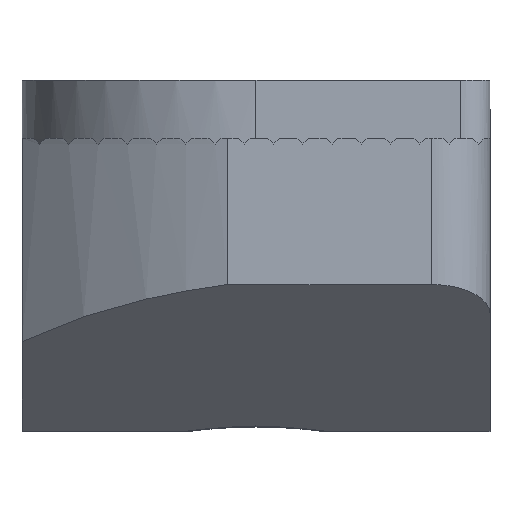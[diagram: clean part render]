
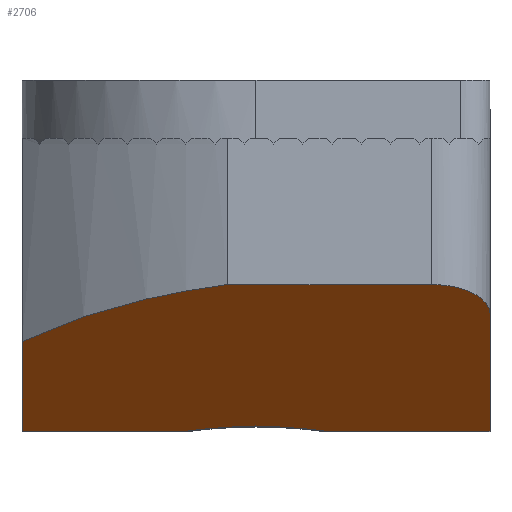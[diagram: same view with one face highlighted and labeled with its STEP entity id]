
A CAD part, top view. The second image highlights one B-rep face of the part: STEP entity #2706.
In plain terms, the highlighted planar face has unit normal (0, -0.894, 0.447).
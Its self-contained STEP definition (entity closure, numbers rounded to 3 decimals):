
#93 = LINE ( 'NONE', #1381, #1229 ) ;
#94 = CARTESIAN_POINT ( 'NONE',  ( 3., -2.5, 7.75 ) ) ;
#113 = AXIS2_PLACEMENT_3D ( 'NONE', #2503, #2196, #200 ) ;
#115 = VERTEX_POINT ( 'NONE', #2888 ) ;
#136 = CARTESIAN_POINT ( 'NONE',  ( 0., -4.917, 2.917 ) ) ;
#159 =( BOUNDED_CURVE ( )  B_SPLINE_CURVE ( 3, ( #1324, #1638, #4189, #2293 ),
 .UNSPECIFIED., .F., .T. ) 
 B_SPLINE_CURVE_WITH_KNOTS ( ( 4, 4 ),
 ( 2.902, 3.142 ),
 .UNSPECIFIED. ) 
 CURVE ( )  GEOMETRIC_REPRESENTATION_ITEM ( )  RATIONAL_B_SPLINE_CURVE ( ( 1., 0.995, 0.995, 1. ) ) 
 REPRESENTATION_ITEM ( '' )  );
#178 = ORIENTED_EDGE ( 'NONE', *, *, #1179, .T. ) ;
#200 = DIRECTION ( 'NONE',  ( 0., 0.447, 0.894 ) ) ;
#242 = VERTEX_POINT ( 'NONE', #1450 ) ;
#270 = CARTESIAN_POINT ( 'NONE',  ( -4., -5., 2.75 ) ) ;
#273 = EDGE_CURVE ( 'NONE', #115, #2267, #3612, .T. ) ;
#343 = EDGE_CURVE ( 'NONE', #1621, #2005, #3574, .T. ) ;
#420 = EDGE_CURVE ( 'NONE', #1001, #1621, #2925, .T. ) ;
#549 = CARTESIAN_POINT ( 'NONE',  ( 1.199, -5., 2.75 ) ) ;
#610 = EDGE_CURVE ( 'NONE', #2267, #2005, #2723, .T. ) ;
#620 = DIRECTION ( 'NONE',  ( 1., 0., 0. ) ) ;
#623 = EDGE_CURVE ( 'NONE', #884, #1001, #2595, .T. ) ;
#719 = ORIENTED_EDGE ( 'NONE', *, *, #610, .F. ) ;
#817 = EDGE_LOOP ( 'NONE', ( #1563, #2449, #719, #2270, #3458, #1574, #2904, #178, #3138 ) ) ;
#821 = CARTESIAN_POINT ( 'NONE',  ( 1.199, -5., 2.75 ) ) ;
#866 = PLANE ( 'NONE',  #113 ) ;
#884 = VERTEX_POINT ( 'NONE', #549 ) ;
#962 = VERTEX_POINT ( 'NONE', #1163 ) ;
#970 = CARTESIAN_POINT ( 'NONE',  ( -4., -2.5, 7.75 ) ) ;
#1001 = VERTEX_POINT ( 'NONE', #3096 ) ;
#1163 = CARTESIAN_POINT ( 'NONE',  ( 0., -4.917, 2.917 ) ) ;
#1179 = EDGE_CURVE ( 'NONE', #962, #884, #2090, .T. ) ;
#1229 = VECTOR ( 'NONE', #2980, 1000. ) ;
#1324 = CARTESIAN_POINT ( 'NONE',  ( -1.199, -5., 2.75 ) ) ;
#1381 = CARTESIAN_POINT ( 'NONE',  ( -4., -5., 2.75 ) ) ;
#1412 = CARTESIAN_POINT ( 'NONE',  ( -4., -3.47, 5.809 ) ) ;
#1442 = CARTESIAN_POINT ( 'NONE',  ( 3.586, -2.5, 7.75 ) ) ;
#1450 = CARTESIAN_POINT ( 'NONE',  ( -1.199, -5., 2.75 ) ) ;
#1551 = FACE_OUTER_BOUND ( 'NONE', #817, .T. ) ;
#1557 = CARTESIAN_POINT ( 'NONE',  ( 3., -2.5, 7.75 ) ) ;
#1563 = ORIENTED_EDGE ( 'NONE', *, *, #420, .T. ) ;
#1574 = ORIENTED_EDGE ( 'NONE', *, *, #1687, .T. ) ;
#1621 = VERTEX_POINT ( 'NONE', #4133 ) ;
#1638 = CARTESIAN_POINT ( 'NONE',  ( -0.806, -4.945, 2.861 ) ) ;
#1687 = EDGE_CURVE ( 'NONE', #2363, #242, #93, .T. ) ;
#1741 = CARTESIAN_POINT ( 'NONE',  ( -3.007, -3., 6.75 ) ) ;
#1973 = DIRECTION ( 'NONE',  ( 1., 0., 0. ) ) ;
#2005 = VERTEX_POINT ( 'NONE', #1557 ) ;
#2069 = CARTESIAN_POINT ( 'NONE',  ( -0.484, -2.5, 7.75 ) ) ;
#2090 =( BOUNDED_CURVE ( )  B_SPLINE_CURVE ( 3, ( #136, #2458, #2774, #821 ),
 .UNSPECIFIED., .F., .T. ) 
 B_SPLINE_CURVE_WITH_KNOTS ( ( 4, 4 ),
 ( 3.142, 3.381 ),
 .UNSPECIFIED. ) 
 CURVE ( )  GEOMETRIC_REPRESENTATION_ITEM ( )  RATIONAL_B_SPLINE_CURVE ( ( 1., 0.995, 0.995, 1. ) ) 
 REPRESENTATION_ITEM ( '' )  );
#2101 = DIRECTION ( 'NONE',  ( 0., 0.447, 0.894 ) ) ;
#2196 = DIRECTION ( 'NONE',  ( 0., 0.894, -0.447 ) ) ;
#2267 = VERTEX_POINT ( 'NONE', #2844 ) ;
#2270 = ORIENTED_EDGE ( 'NONE', *, *, #273, .F. ) ;
#2279 = CARTESIAN_POINT ( 'NONE',  ( -4., -2.5, 7.75 ) ) ;
#2286 = CARTESIAN_POINT ( 'NONE',  ( -4., -5., 2.75 ) ) ;
#2293 = CARTESIAN_POINT ( 'NONE',  ( 0., -4.917, 2.917 ) ) ;
#2363 = VERTEX_POINT ( 'NONE', #270 ) ;
#2449 = ORIENTED_EDGE ( 'NONE', *, *, #343, .T. ) ;
#2458 = CARTESIAN_POINT ( 'NONE',  ( 0.404, -4.917, 2.917 ) ) ;
#2503 = CARTESIAN_POINT ( 'NONE',  ( -4., -2.5, 7.75 ) ) ;
#2541 = VECTOR ( 'NONE', #1973, 1000. ) ;
#2548 = VECTOR ( 'NONE', #620, 1000. ) ;
#2595 = LINE ( 'NONE', #2286, #2541 ) ;
#2609 = DIRECTION ( 'NONE',  ( 0., 0.447, 0.894 ) ) ;
#2706 = ADVANCED_FACE ( 'NONE', ( #1551 ), #866, .F. ) ;
#2723 = LINE ( 'NONE', #970, #2548 ) ;
#2728 = CARTESIAN_POINT ( 'NONE',  ( 4., -3., 6.75 ) ) ;
#2744 = CARTESIAN_POINT ( 'NONE',  ( 4., -2.5, 7.75 ) ) ;
#2774 = CARTESIAN_POINT ( 'NONE',  ( 0.806, -4.945, 2.861 ) ) ;
#2844 = CARTESIAN_POINT ( 'NONE',  ( -0.484, -2.5, 7.75 ) ) ;
#2869 = EDGE_CURVE ( 'NONE', #242, #962, #159, .T. ) ;
#2888 = CARTESIAN_POINT ( 'NONE',  ( -4., -3.47, 5.809 ) ) ;
#2904 = ORIENTED_EDGE ( 'NONE', *, *, #2869, .T. ) ;
#2925 = LINE ( 'NONE', #2744, #2968 ) ;
#2968 = VECTOR ( 'NONE', #2101, 1000. ) ;
#2980 = DIRECTION ( 'NONE',  ( 1., 0., 0. ) ) ;
#3096 = CARTESIAN_POINT ( 'NONE',  ( 4., -5., 2.75 ) ) ;
#3138 = ORIENTED_EDGE ( 'NONE', *, *, #623, .T. ) ;
#3229 = EDGE_CURVE ( 'NONE', #2363, #115, #3921, .T. ) ;
#3458 = ORIENTED_EDGE ( 'NONE', *, *, #3229, .F. ) ;
#3574 =( BOUNDED_CURVE ( )  B_SPLINE_CURVE ( 3, ( #2728, #3684, #1442, #94 ),
 .UNSPECIFIED., .F., .F. ) 
 B_SPLINE_CURVE_WITH_KNOTS ( ( 4, 4 ),
 ( 4.712, 6.283 ),
 .UNSPECIFIED. ) 
 CURVE ( )  GEOMETRIC_REPRESENTATION_ITEM ( )  RATIONAL_B_SPLINE_CURVE ( ( 1., 0.805, 0.805, 1. ) ) 
 REPRESENTATION_ITEM ( '' )  );
#3612 =( BOUNDED_CURVE ( )  B_SPLINE_CURVE ( 3, ( #1412, #1741, #3973, #2069 ),
 .UNSPECIFIED., .F., .F. ) 
 B_SPLINE_CURVE_WITH_KNOTS ( ( 4, 4 ),
 ( 5.525, 6.033 ),
 .UNSPECIFIED. ) 
 CURVE ( )  GEOMETRIC_REPRESENTATION_ITEM ( )  RATIONAL_B_SPLINE_CURVE ( ( 1., 0.979, 0.979, 1. ) ) 
 REPRESENTATION_ITEM ( '' )  );
#3684 = CARTESIAN_POINT ( 'NONE',  ( 4., -2.707, 7.336 ) ) ;
#3880 = VECTOR ( 'NONE', #2609, 1000. ) ;
#3921 = LINE ( 'NONE', #2279, #3880 ) ;
#3973 = CARTESIAN_POINT ( 'NONE',  ( -1.809, -2.67, 7.411 ) ) ;
#4133 = CARTESIAN_POINT ( 'NONE',  ( 4., -3., 6.75 ) ) ;
#4189 = CARTESIAN_POINT ( 'NONE',  ( -0.404, -4.917, 2.917 ) ) ;
